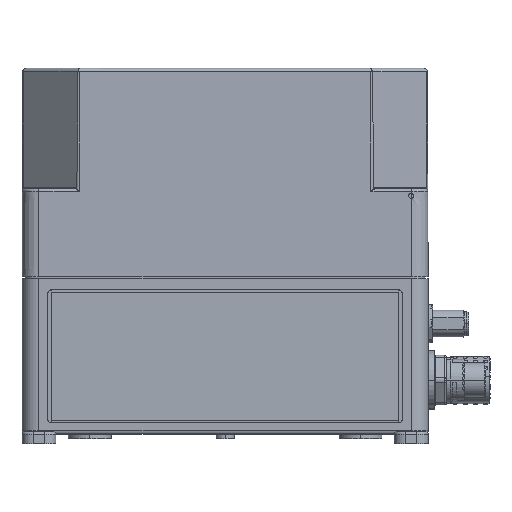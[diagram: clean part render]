
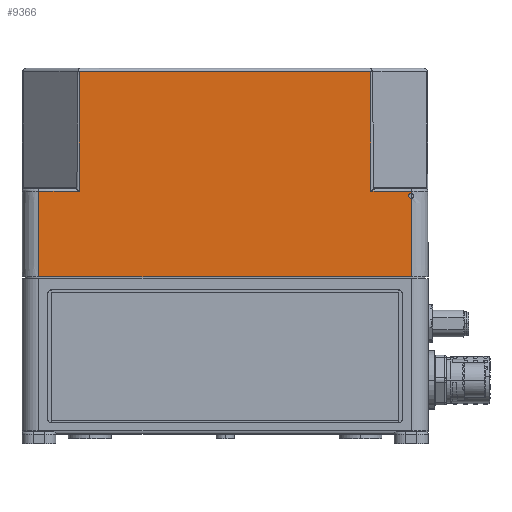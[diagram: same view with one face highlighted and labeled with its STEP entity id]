
A CAD part, left-side view. The second image highlights one B-rep face of the part: STEP entity #9366.
In plain terms, the highlighted planar face has unit normal (-1, 0, 0.004).
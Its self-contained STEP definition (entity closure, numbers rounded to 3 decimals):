
#269 = CARTESIAN_POINT ( 'NONE',  ( -55., 82.5, 0. ) ) ;
#1435 = ORIENTED_EDGE ( 'NONE', *, *, #70961, .T. ) ;
#2500 = CARTESIAN_POINT ( 'NONE',  ( -54.867, -64.677, 38.003 ) ) ;
#3107 = DIRECTION ( 'NONE',  ( 0., 1., 0. ) ) ;
#4085 = CARTESIAN_POINT ( 'NONE',  ( -55., 82.5, 0. ) ) ;
#5360 = CARTESIAN_POINT ( 'NONE',  ( -54.867, 82.5, 38.003 ) ) ;
#7392 = PLANE ( 'NONE',  #28787 ) ;
#9366 = ADVANCED_FACE ( 'NONE', ( #92337 ), #7392, .T. ) ;
#12330 = DIRECTION ( 'NONE',  ( 0., -1., 0. ) ) ;
#13204 =( BOUNDED_CURVE ( )  B_SPLINE_CURVE ( 3, ( #62168, #62843, #73687, #53947 ),
 .UNSPECIFIED., .F., .F. ) 
 B_SPLINE_CURVE_WITH_KNOTS ( ( 4, 4 ),
 ( 0., 3.142 ),
 .UNSPECIFIED. ) 
 CURVE ( )  GEOMETRIC_REPRESENTATION_ITEM ( )  RATIONAL_B_SPLINE_CURVE ( ( 1., 0.333, 0.333, 1. ) ) 
 REPRESENTATION_ITEM ( '' )  );
#14500 = EDGE_CURVE ( 'NONE', #55643, #113631, #114980, .T. ) ;
#15406 = ORIENTED_EDGE ( 'NONE', *, *, #37653, .T. ) ;
#16486 = CARTESIAN_POINT ( 'NONE',  ( -55., -82.5, 0. ) ) ;
#18465 = CARTESIAN_POINT ( 'NONE',  ( -54.682, 64.677, 91.005 ) ) ;
#18644 = CARTESIAN_POINT ( 'NONE',  ( -55., -82.5, 0. ) ) ;
#20962 = ORIENTED_EDGE ( 'NONE', *, *, #105569, .T. ) ;
#21160 = EDGE_CURVE ( 'NONE', #130105, #133668, #116271, .T. ) ;
#21926 = ORIENTED_EDGE ( 'NONE', *, *, #21160, .T. ) ;
#26753 = VERTEX_POINT ( 'NONE', #62821 ) ;
#27677 = CARTESIAN_POINT ( 'NONE',  ( -55., -82.5, 0. ) ) ;
#28212 = DIRECTION ( 'NONE',  ( 0.003, 0., 1. ) ) ;
#28777 = VECTOR ( 'NONE', #28212, 1000. ) ;
#28787 = AXIS2_PLACEMENT_3D ( 'NONE', #53486, #95003, #83442 ) ;
#28899 = CARTESIAN_POINT ( 'NONE',  ( -54.867, -82.5, 38.003 ) ) ;
#30644 = VECTOR ( 'NONE', #73483, 1000. ) ;
#31545 = EDGE_CURVE ( 'NONE', #40777, #43363, #100161, .T. ) ;
#31920 = DIRECTION ( 'NONE',  ( 0., -1., 0. ) ) ;
#37653 = EDGE_CURVE ( 'NONE', #26753, #53766, #13204, .T. ) ;
#38934 = CARTESIAN_POINT ( 'NONE',  ( -55., -64.677, 0. ) ) ;
#40777 = VERTEX_POINT ( 'NONE', #28899 ) ;
#41354 = EDGE_LOOP ( 'NONE', ( #21926, #91925, #15406, #77222, #80350, #1435, #105133, #117178, #90584, #20962 ) ) ;
#43363 = VERTEX_POINT ( 'NONE', #2500 ) ;
#45615 = DIRECTION ( 'NONE',  ( -0.003, 0., -1. ) ) ;
#48006 = VECTOR ( 'NONE', #31920, 1000. ) ;
#48530 = EDGE_CURVE ( 'NONE', #133668, #26753, #61382, .T. ) ;
#49019 = CARTESIAN_POINT ( 'NONE',  ( -54.87, -82.5, 37.1 ) ) ;
#53486 = CARTESIAN_POINT ( 'NONE',  ( -55., 55., 0. ) ) ;
#53706 = CARTESIAN_POINT ( 'NONE',  ( -55., 55., 0. ) ) ;
#53766 = VERTEX_POINT ( 'NONE', #49019 ) ;
#53947 = CARTESIAN_POINT ( 'NONE',  ( -54.87, -82.5, 37.1 ) ) ;
#54051 = LINE ( 'NONE', #126816, #77669 ) ;
#55643 = VERTEX_POINT ( 'NONE', #18465 ) ;
#57856 = DIRECTION ( 'NONE',  ( 0.003, 0., 1. ) ) ;
#58644 = CARTESIAN_POINT ( 'NONE',  ( -54.867, 64.677, 38.003 ) ) ;
#61382 = LINE ( 'NONE', #18644, #28777 ) ;
#61780 = LINE ( 'NONE', #103337, #48006 ) ;
#62168 = CARTESIAN_POINT ( 'NONE',  ( -54.878, -82.5, 34.9 ) ) ;
#62821 = CARTESIAN_POINT ( 'NONE',  ( -54.878, -82.5, 34.9 ) ) ;
#62843 = CARTESIAN_POINT ( 'NONE',  ( -54.878, -80.3, 34.9 ) ) ;
#63936 = CARTESIAN_POINT ( 'NONE',  ( -55., 64.677, 0. ) ) ;
#67443 = VECTOR ( 'NONE', #57856, 1000. ) ;
#68770 = CARTESIAN_POINT ( 'NONE',  ( -54.867, 55., 38.003 ) ) ;
#70961 = EDGE_CURVE ( 'NONE', #43363, #102011, #90583, .T. ) ;
#73483 = DIRECTION ( 'NONE',  ( -0.003, 0., -1. ) ) ;
#73687 = CARTESIAN_POINT ( 'NONE',  ( -54.87, -80.3, 37.1 ) ) ;
#74769 = LINE ( 'NONE', #4085, #94122 ) ;
#75621 = VECTOR ( 'NONE', #80375, 1000. ) ;
#77222 = ORIENTED_EDGE ( 'NONE', *, *, #89720, .T. ) ;
#77669 = VECTOR ( 'NONE', #3107, 1000. ) ;
#80350 = ORIENTED_EDGE ( 'NONE', *, *, #31545, .T. ) ;
#80375 = DIRECTION ( 'NONE',  ( 0., 1., 0. ) ) ;
#83442 = DIRECTION ( 'NONE',  ( 0.003, 0., 1. ) ) ;
#88663 = VECTOR ( 'NONE', #91254, 1000. ) ;
#89720 = EDGE_CURVE ( 'NONE', #53766, #40777, #120452, .T. ) ;
#90583 = LINE ( 'NONE', #38934, #88663 ) ;
#90584 = ORIENTED_EDGE ( 'NONE', *, *, #108347, .T. ) ;
#91254 = DIRECTION ( 'NONE',  ( 0.003, 0., 1. ) ) ;
#91925 = ORIENTED_EDGE ( 'NONE', *, *, #48530, .T. ) ;
#92155 = CARTESIAN_POINT ( 'NONE',  ( -54.682, -64.677, 91.005 ) ) ;
#92337 = FACE_OUTER_BOUND ( 'NONE', #41354, .T. ) ;
#94122 = VECTOR ( 'NONE', #45615, 1000. ) ;
#94449 = VERTEX_POINT ( 'NONE', #5360 ) ;
#95003 = DIRECTION ( 'NONE',  ( -1., 0., 0.003 ) ) ;
#100161 = LINE ( 'NONE', #68770, #75621 ) ;
#100799 = EDGE_CURVE ( 'NONE', #55643, #102011, #61780, .T. ) ;
#102011 = VERTEX_POINT ( 'NONE', #92155 ) ;
#103337 = CARTESIAN_POINT ( 'NONE',  ( -54.682, 150., 91.005 ) ) ;
#105133 = ORIENTED_EDGE ( 'NONE', *, *, #100799, .F. ) ;
#105569 = EDGE_CURVE ( 'NONE', #94449, #130105, #74769, .T. ) ;
#108347 = EDGE_CURVE ( 'NONE', #113631, #94449, #54051, .T. ) ;
#113631 = VERTEX_POINT ( 'NONE', #58644 ) ;
#114980 = LINE ( 'NONE', #63936, #30644 ) ;
#116271 = LINE ( 'NONE', #53706, #128870 ) ;
#117178 = ORIENTED_EDGE ( 'NONE', *, *, #14500, .T. ) ;
#120452 = LINE ( 'NONE', #16486, #67443 ) ;
#126816 = CARTESIAN_POINT ( 'NONE',  ( -54.867, 55., 38.003 ) ) ;
#128870 = VECTOR ( 'NONE', #12330, 1000. ) ;
#130105 = VERTEX_POINT ( 'NONE', #269 ) ;
#133668 = VERTEX_POINT ( 'NONE', #27677 ) ;
